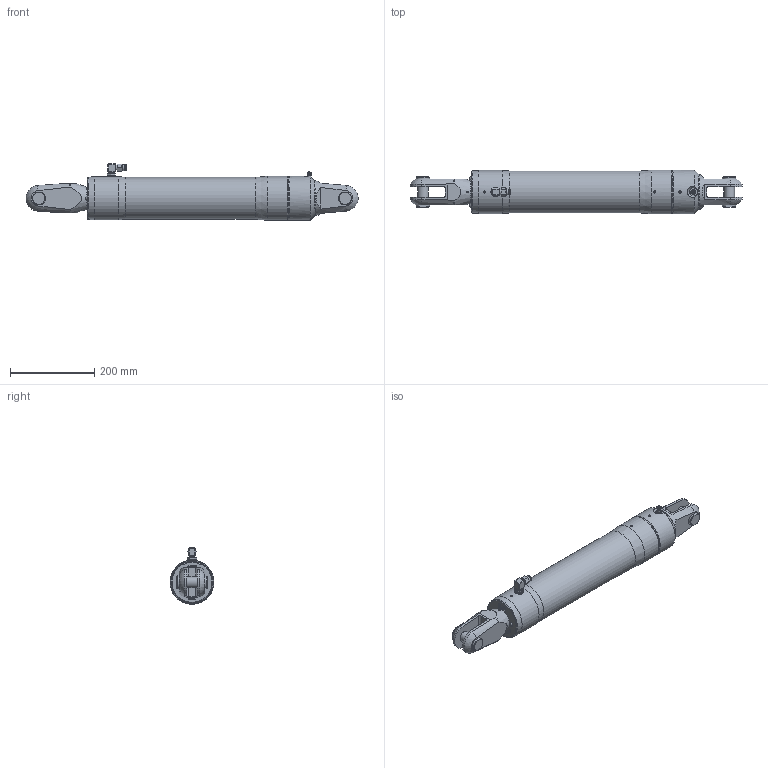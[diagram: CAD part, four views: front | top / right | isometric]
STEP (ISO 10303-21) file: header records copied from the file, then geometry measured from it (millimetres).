
FILE_DESCRIPTION(/* description */ (''),/* implementation_level */ '2;1');
FILE_NAME(/* name */ 'Q:\AA BRAND HYDRAULICS\HYDRAULICS FAMILY DIRECTORY\HYDRAULICS\CYLINDERS\RAMS\STAINLESS - STANDARD SINGLE ACTING (-0006 To -0260)\RSS-0040-S0300-NP-71\RSS-0040-S0300-NP-71 (Closed).stp',/* time_stamp */ '2018-02-07T15:28:11+00:00',/* author */ ('Lorena'),/* organization */ (''),/* preprocessor_version */ 'ST-DEVELOPER v17',/* originating_system */ 'Autodesk Inventor 2018',/* authorisation */ '');
FILE_SCHEMA (('AUTOMOTIVE_DESIGN { 1 0 10303 214 3 1 1 }'));
Length unit declared in the file: millimetre
Products named in the file (1): RSS-0040-S0300-NP-71 (Closed)
Bounding box: 786.62 x 104.2 x 134 mm (x, y, z)
Volume: 4946198.5 mm3; surface area: 262966.1 mm2
Topology: 2 solids, 6 shells, 1775 faces, 4774 edges, 3159 vertices
Faces by surface type: plane 1001, bspline 574, cone 110, cylinder 82, sphere 4, torus 4
Full cylindrical faces by diameter (mm): 4 x1, 4.134 x1, 5 x3, 5.1 x1, 5.9 x1, 6 x2, 6.5 x2, 7 x1, 9 x1, 10 x2, 11.157 x1, 11.5 x1, 11.8 x1, 12 x1, 12.157 x1, 12.77 x1, 13 x1, 13.157 x2, 14.5 x2, 16 x2, 18.3 x3, 22 x1, 25.4 x2, 26 x1, 28 x1, 31.75 x2, 97.6 x1, 99.2 x1, 102.2 x1, 103.2 x1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
Entity records: 63668 total; most frequent: CARTESIAN_POINT 21420, ORIENTED_EDGE 9534, DIRECTION 6260, EDGE_CURVE 4767, VERTEX_POINT 3161, LINE 2958, VECTOR 2958, EDGE_LOOP 1944
